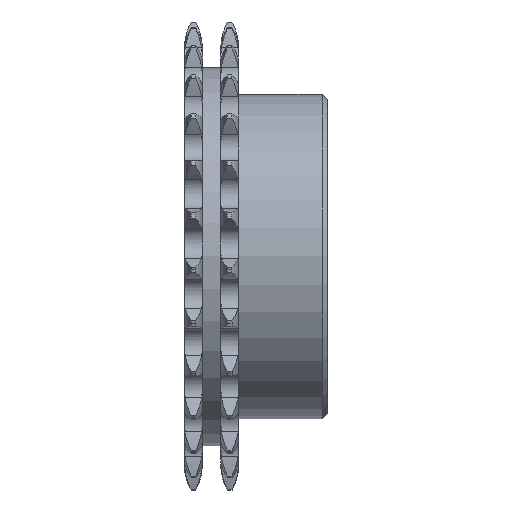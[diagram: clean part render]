
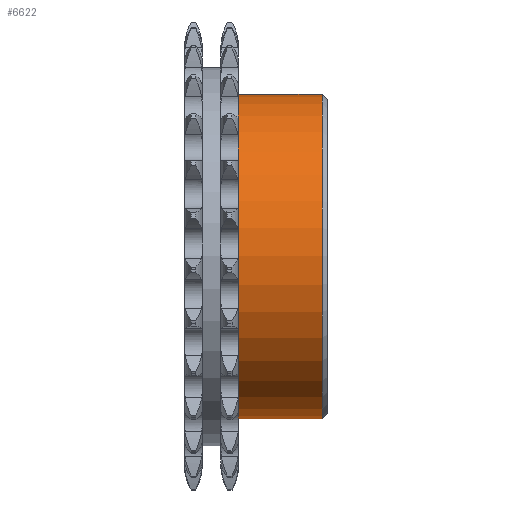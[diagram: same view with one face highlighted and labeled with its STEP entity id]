
A CAD part, top view. The second image highlights one B-rep face of the part: STEP entity #6622.
In plain terms, the highlighted cylindrical face has radius 25000 mm (diameter 50000 mm), a full revolution.
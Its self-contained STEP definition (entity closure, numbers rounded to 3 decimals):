
#22=FACE_BOUND('',#1134,.T.);
#330=CIRCLE('',#7102,25000.);
#412=CIRCLE('',#7254,25000.);
#770=FACE_OUTER_BOUND('',#1133,.T.);
#1133=EDGE_LOOP('',(#5955));
#1134=EDGE_LOOP('',(#5956));
#2860=VERTEX_POINT('',#14353);
#2863=VERTEX_POINT('',#14508);
#3833=EDGE_CURVE('',#2860,#2860,#330,.T.);
#3915=EDGE_CURVE('',#2863,#2863,#412,.T.);
#5955=ORIENTED_EDGE('',*,*,#3833,.T.);
#5956=ORIENTED_EDGE('',*,*,#3915,.F.);
#6269=CYLINDRICAL_SURFACE('',#7253,25000.);
#6622=ADVANCED_FACE('',(#770,#22),#6269,.T.);
#7102=AXIS2_PLACEMENT_3D('',#14354,#8450,#8451);
#7253=AXIS2_PLACEMENT_3D('',#14507,#8752,#8753);
#7254=AXIS2_PLACEMENT_3D('',#14509,#8754,#8755);
#8450=DIRECTION('center_axis',(1.,0.,0.));
#8451=DIRECTION('ref_axis',(0.,0.,-1.));
#8752=DIRECTION('center_axis',(1.,0.,0.));
#8753=DIRECTION('ref_axis',(0.,1.,0.));
#8754=DIRECTION('center_axis',(1.,0.,0.));
#8755=DIRECTION('ref_axis',(0.,0.,-1.));
#14353=CARTESIAN_POINT('',(11776.762,24983.647,0.));
#14354=CARTESIAN_POINT('Origin',(11776.762,-16.353,0.));
#14507=CARTESIAN_POINT('Origin',(18226.762,-16.353,0.));
#14508=CARTESIAN_POINT('',(24676.762,24983.647,0.));
#14509=CARTESIAN_POINT('Origin',(24676.762,-16.353,0.));
